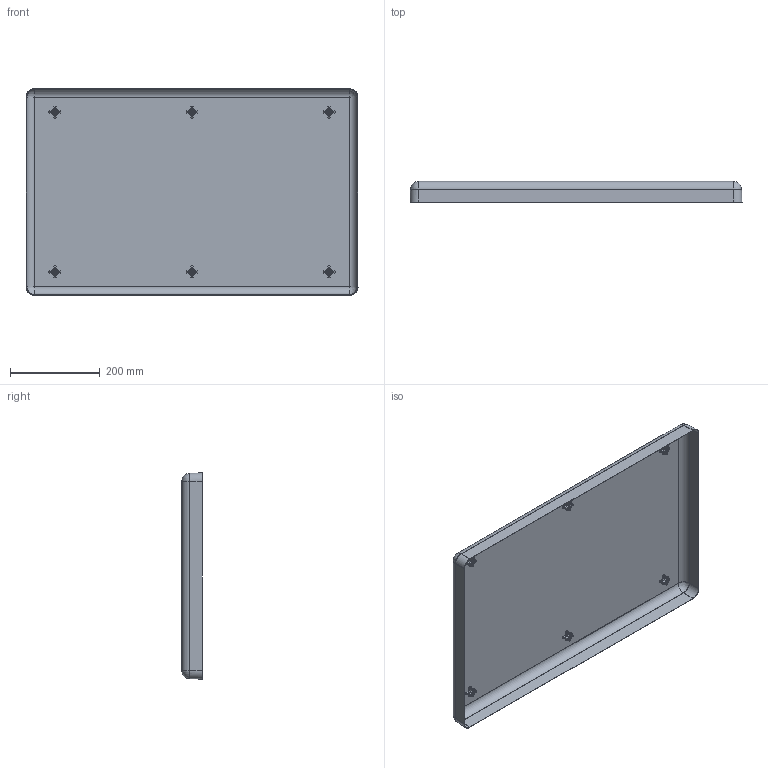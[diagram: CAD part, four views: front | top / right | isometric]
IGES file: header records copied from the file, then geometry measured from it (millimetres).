
Start section: SolidWorks IGES file using analytic representation for surfaces
Global section: file name: C:\temp\EU files dimensions 12-14-15\EU case files in pdf and DXF format\1650 Peli case Top.IGS; native system: SolidWorks 2014; preprocessor: SolidWorks 2014; author: mhakami; date: 160112.104904; units: inch
Bounding box: 741.33 x 46.54 x 460.81 mm (x, y, z)
Surface area: 867878.9 mm2 (no closed solid volume)
Topology: 0 solids, 0 shells, 1245 faces, 8956 edges, 8764 vertices
Faces by surface type: bspline 721, revolution 524
